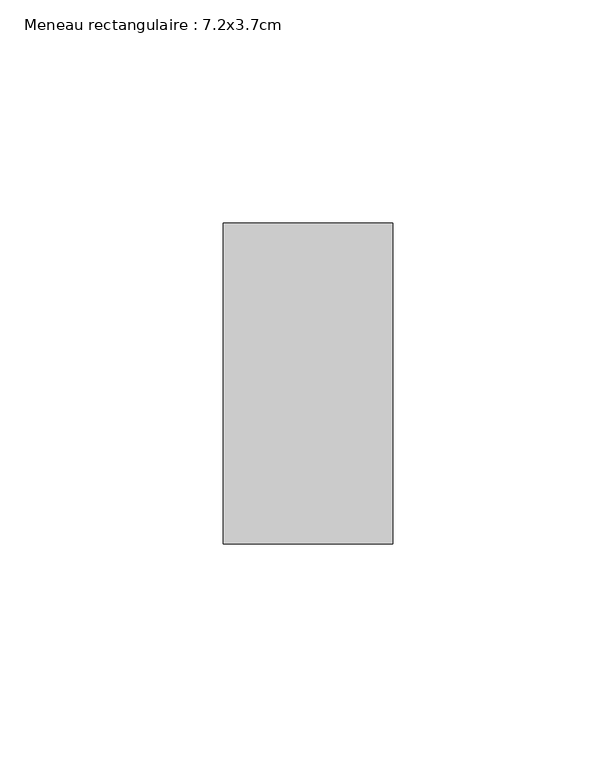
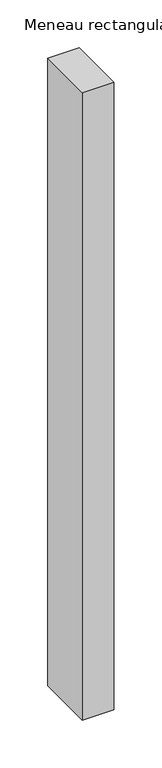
"""IFC4 building model written with IfcOpenShell, lengths in millimetres: member geometry, Meneau rectangulaire : 7.2x3.7cm."""

from ifc_helpers import new_model, si_unit, frame, origin, place, context, project, spatial, polyline, outline, extrude, source, transform, mapped, element, save


def meneau_rectangulaire_7_2x3_7cm_ec71893b(model_context):
    return source(origin(), model_context, "Body", "SweptSolid", [
        extrude(outline(polyline([(0.0, 36.0), (0.0, -36.0), (-38.0, -36.0), (-38.0, 36.0), (0.0, 36.0)])), frame((0.0, 0.0, -800.0), z_axis=(0.0, 0.0, 1.0), x_axis=(1.0, 0.0, 0.0)), (0.0, 0.0, 1.0), 800.0),
    ])


if __name__ == "__main__":
    model = new_model("IFC4")
    model_context = context("Model", 3, world=origin())
    ifc_project = project(units=[si_unit("LENGTHUNIT", "METRE", prefix="MILLI")], contexts=[model_context])
    site = spatial("IfcSite", under=ifc_project)
    building = spatial("IfcBuilding", under=site)
    placement = place(None, origin())
    meneau_rectangulaire_7_2x3_7cm_shape = meneau_rectangulaire_7_2x3_7cm_ec71893b(model_context)
    element("IfcMember", 1, ObjectType="Meneau rectangulaire : 7.2x3.7cm", at=placement, inside=building, context=model_context, shape_type="MappedRepresentation", body=[
        mapped(meneau_rectangulaire_7_2x3_7cm_shape, transform((0.0, 0.0, 0.0), x_axis=(1.0, 0.0, 0.0), y_axis=(0.0, 1.0, 0.0), z_axis=(0.0, 0.0, 1.0))),
    ])
    save(model, "model.ifc")
